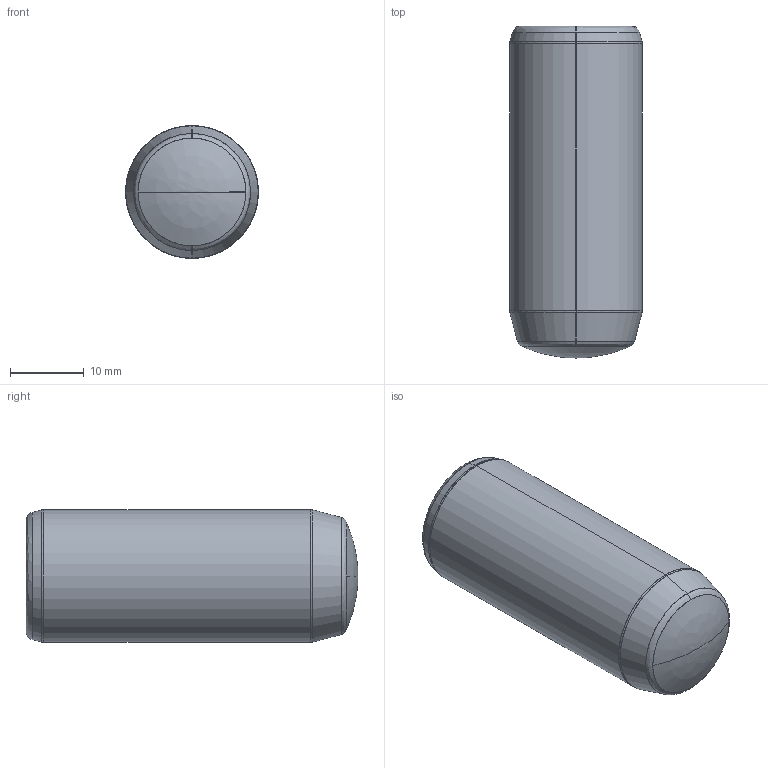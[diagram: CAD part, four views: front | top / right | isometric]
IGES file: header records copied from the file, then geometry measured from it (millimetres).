
Start section: SolidWorks IGES file using analytic representation for surfaces
Global section: file name: D:\Cleonir_arquivos\MT_15_07\Pinos Guia DIN 7979 ISO 8735 com rosca\PG718045.igs; native system: SolidWorks 2013; preprocessor: SolidWorks 2013; author: Cleonir; date: 130730.172131; units: millimetre
Bounding box: 18 x 45 x 18 mm (x, y, z)
Surface area: 3314.2 mm2 (no closed solid volume)
Topology: 0 solids, 0 shells, 295 faces, 2133 edges, 2130 vertices
Faces by surface type: bspline 273, revolution 22
